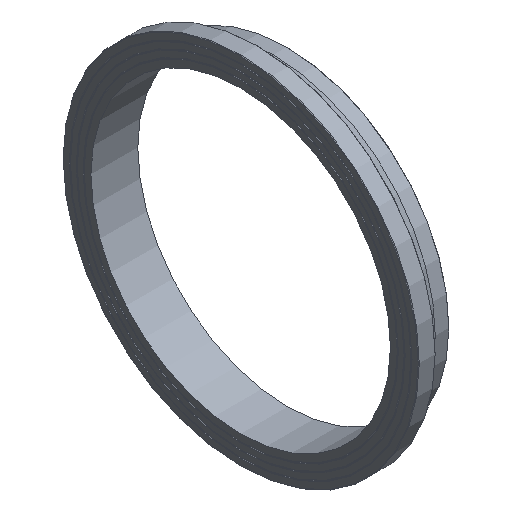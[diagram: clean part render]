
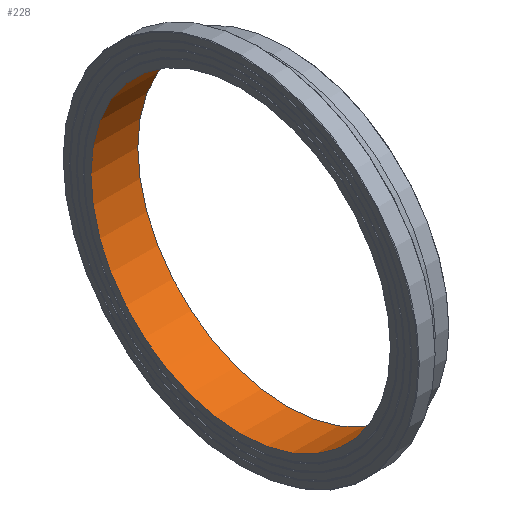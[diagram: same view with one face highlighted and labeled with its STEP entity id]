
A CAD part, isometric view. The second image highlights one B-rep face of the part: STEP entity #228.
In plain terms, the highlighted cylindrical face has radius 415.6 mm (diameter 831.2 mm), a full revolution.
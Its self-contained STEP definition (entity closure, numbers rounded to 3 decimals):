
#33=CYLINDRICAL_SURFACE('',#274,415.6);
#50=ORIENTED_EDGE('',*,*,#79,.F.);
#51=ORIENTED_EDGE('',*,*,#76,.T.);
#76=EDGE_CURVE('',#96,#96,#116,.T.);
#79=EDGE_CURVE('',#99,#99,#119,.T.);
#96=VERTEX_POINT('',#383);
#99=VERTEX_POINT('',#390);
#116=CIRCLE('',#257,415.6);
#119=CIRCLE('',#261,415.6);
#150=EDGE_LOOP('',(#50));
#151=EDGE_LOOP('',(#51));
#190=FACE_BOUND('',#150,.T.);
#191=FACE_BOUND('',#151,.T.);
#228=ADVANCED_FACE('',(#190,#191),#33,.F.);
#257=AXIS2_PLACEMENT_3D('',#382,#303,#304);
#261=AXIS2_PLACEMENT_3D('',#389,#311,#312);
#274=AXIS2_PLACEMENT_3D('',#410,#337,#338);
#303=DIRECTION('',(-1.,0.,0.));
#304=DIRECTION('',(0.,0.,1.));
#311=DIRECTION('',(-1.,0.,0.));
#312=DIRECTION('',(0.,0.,1.));
#337=DIRECTION('',(-1.,0.,0.));
#338=DIRECTION('',(0.,0.,1.));
#382=CARTESIAN_POINT('',(0.,0.,0.));
#383=CARTESIAN_POINT('',(0.,0.,415.6));
#389=CARTESIAN_POINT('',(130.,0.,0.));
#390=CARTESIAN_POINT('',(130.,0.,415.6));
#410=CARTESIAN_POINT('',(60.,0.,0.));
